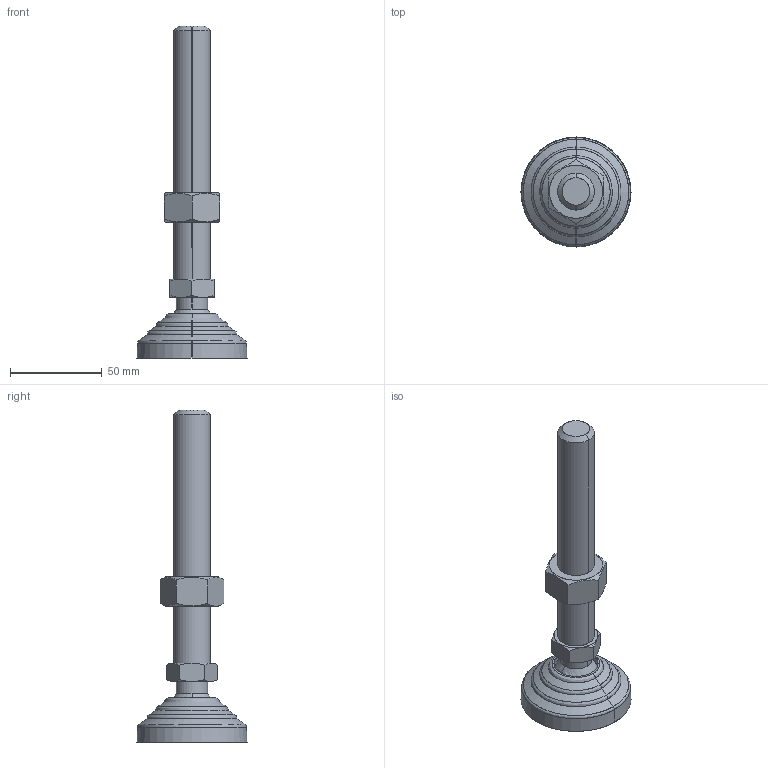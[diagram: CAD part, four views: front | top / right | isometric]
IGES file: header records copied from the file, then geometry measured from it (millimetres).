
Start section: SolidWorks IGES file using analytic representation for surfaces
Global section: file name: X:\11_SW2020-Inv2020\00_全2021-11新製品まで\l\LVE60L20B\lve60l20b.IGS; native system: SolidWorks 2020; preprocessor: SolidWorks 2020; author: ImaoCorp; date: 211025.124046; units: millimetre
Bounding box: 60 x 60 x 181 mm (x, y, z)
Surface area: 22705.8 mm2 (no closed solid volume)
Topology: 0 solids, 0 shells, 55 faces, 1064 edges, 1060 vertices
Faces by surface type: bspline 29, revolution 26
